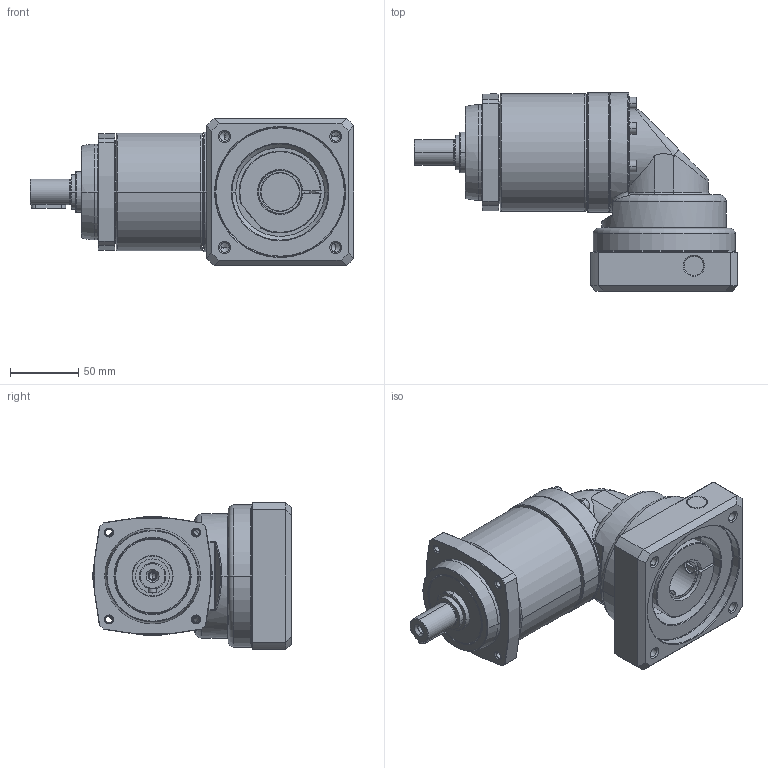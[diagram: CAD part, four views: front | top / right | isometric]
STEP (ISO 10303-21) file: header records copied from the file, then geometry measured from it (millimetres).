
FILE_DESCRIPTION((''),'2;1');
FILE_NAME('PS2R-C_2ST_28-P0411600101_ASM','2016-06-01T',('d01943'),(''),'PRO/ENGINEER BY PARAMETRIC TECHNOLOGY CORPORATION, 2008410','PRO/ENGINEER BY PARAMETRIC TECHNOLOGY CORPORATION, 2008410','');
FILE_SCHEMA(('CONFIG_CONTROL_DESIGN'));
Length unit declared in the file: millimetre
Products named in the file (12): P1328310001; P0251300001; P0350301401; P1349300001; P1017300001; P0713303001; P0503600008; P1350300301; P0411600101; P1702500001; 2111BA05025; PS2R-C_2ST_28-P0411600101_ASM
Assembly tree (16 placements, depth 2):
  PS2R-C_2ST_28-P0411600101_ASM
    P1328310001
    P0251300001
    P0350301401
    P1349300001
    P1017300001
    P0713303001
    P0503600008
    P1350300301
    P0411600101
    P1702500001
    2111BA05025  x6
Bounding box: 237 x 145.25 x 108 mm (x, y, z)
Volume: 918171.9 mm3; surface area: 229688.9 mm2
Topology: 16 solids, 16 shells, 795 faces, 1747 edges, 1014 vertices
Faces by surface type: cylinder 248, cone 230, plane 191, torus 92, bspline 34
Entity records: 23293 total; most frequent: CARTESIAN_POINT 9102, DIRECTION 3148, ORIENTED_EDGE 2742, EDGE_CURVE 1371, AXIS2_PLACEMENT_3D 1333, VERTEX_POINT 814, EDGE_LOOP 719, CIRCLE 709
